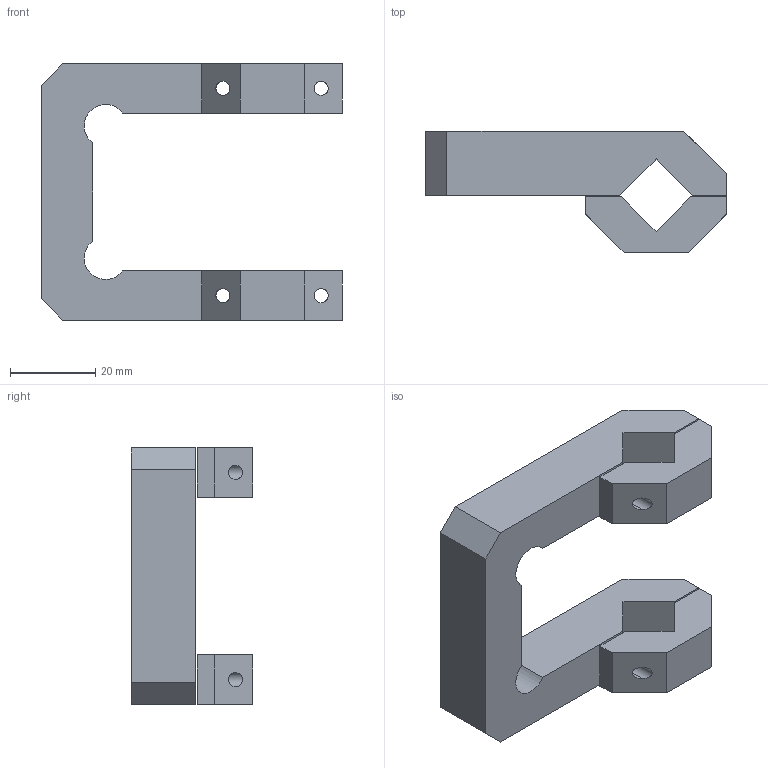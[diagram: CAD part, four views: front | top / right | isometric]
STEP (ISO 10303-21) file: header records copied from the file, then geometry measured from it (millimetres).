
FILE_DESCRIPTION (( 'STEP AP203' ), '1' );
FILE_NAME ('BC-32-MC.STEP', '2017-02-15T11:49:22', ( '' ), ( '' ), 'SwSTEP 2.0', 'SolidWorks 2012', '' );
FILE_SCHEMA (( 'CONFIG_CONTROL_DESIGN' ));
Length unit declared in the file: millimetre
Products named in the file (1): BC-32-MC
Bounding box: 70.5 x 28.38 x 60 mm (x, y, z)
Volume: 31858.9 mm3; surface area: 13425.7 mm2
Topology: 3 solids, 3 shells, 73 faces, 189 edges, 126 vertices
Faces by surface type: plane 46, cylinder 27
Entity records: 2330 total; most frequent: CARTESIAN_POINT 425, ORIENTED_EDGE 378, DIRECTION 367, EDGE_CURVE 189, VECTOR 135, LINE 135, VERTEX_POINT 126, AXIS2_PLACEMENT_3D 116
